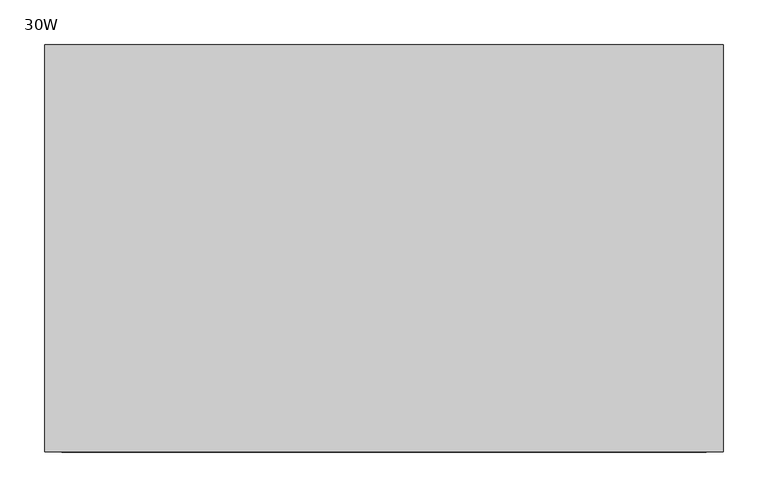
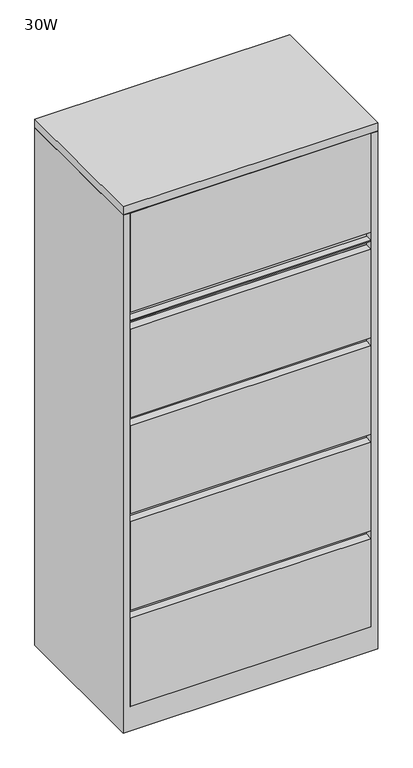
"""IFC4 building model written with IfcOpenShell, lengths in millimetres: furniture geometry, Steelcase - 900 Series - Storage - Lateral File With Drawer - 66H - Flush Steel : 30W."""

from ifc_helpers import new_model, si_unit, frame, origin, place, context, project, spatial, polyline, outline, extrude, faceted_brep, source, transform, mapped, element, save


def furniture_30w_b0734628(model_context):
    return source(origin(), model_context, "Body", "SolidModel", [
        extrude(outline(polyline([(762.0, 0.0), (762.0, -457.2), (0.0, -457.2), (0.0, 0.0), (762.0, 0.0)])), frame((0.0, 0.0, 1638.2999516), z_axis=(0.0, 0.0, 1.0), x_axis=(1.0, 0.0, 0.0)), (0.0, 0.0, 1.0), 25.4),
        faceted_brep([(742.6960184, -25.2721219, 1636.776), (742.6960184, -457.2, 1636.776), (762.0, -457.2, 1636.776), (762.0, 0.0, 1636.776), (0.0, 0.0, 1636.776), (0.0, -457.2, 1636.776), (19.3039998, -457.2, 1636.776), (19.3039998, -25.2721219, 1636.776), (0.0, -457.2, 0.0), (0.0, 0.0, 0.0), (762.0, 0.0, 0.0), (762.0, -457.2, 0.0), (742.6960184, -25.2721219, 381.0), (742.6960184, -431.800255, 381.0), (742.6960184, -431.800255, 355.6), (742.6960184, -25.2721219, 355.6), (742.6960184, -25.2721219, 76.2), (742.6960184, -457.2, 76.2), (19.3039998, -457.2, 76.2), (19.3039998, -25.2721219, 76.2), (19.3039998, -25.2721219, 355.6), (19.3039998, -431.800255, 355.6), (19.3039998, -431.800255, 381.0), (19.3039998, -25.2721219, 381.0)], [[[0, 1, 2, 3, 4, 5, 6, 7]], [[8, 9, 10, 11]], [[1, 0, 12, 13, 14, 15, 16, 17]], [[2, 1, 17, 18, 6, 5, 8, 11]], [[3, 2, 11, 10]], [[4, 3, 10, 9]], [[5, 4, 9, 8]], [[7, 6, 18, 19, 20, 21, 22, 23]], [[0, 7, 23, 12]], [[16, 15, 20, 19]], [[18, 17, 16, 19]], [[22, 13, 12, 23]], [[13, 22, 21, 14]], [[14, 21, 20, 15]]]),
        extrude(outline(polyline([(741.1722015, -457.2), (20.8289612, -457.2), (20.8289612, -434.9741219), (741.1722015, -434.9741219), (741.1722015, -457.2)])), frame((0.0, 0.0, 1295.4), z_axis=(0.0, 0.0, 1.0), x_axis=(1.0, 0.0, 0.0)), (0.0, 0.0, 1.0), 3.175),
        extrude(outline(polyline([(741.1722015, -457.2), (20.8289612, -457.2), (20.8289612, -431.800255), (741.1722015, -431.800255), (741.1722015, -457.2)])), frame((0.0, 0.0, 1323.975), z_axis=(0.0, 0.0, 1.0), x_axis=(1.0, 0.0, 0.0)), (0.0, 0.0, 1.0), 312.801),
        extrude(outline(polyline([(742.6960184, -25.2721219), (742.6960184, -431.800255), (19.3039998, -431.800255), (19.3039998, -25.2721219), (742.6960184, -25.2721219)])), frame((0.0, 0.0, 660.4), z_axis=(0.0, 0.0, 1.0), x_axis=(1.0, 0.0, 0.0)), (0.0, 0.0, 1.0), 25.4),
        extrude(outline(polyline([(741.1722015, -457.2), (20.8289612, -457.2), (20.8289612, -431.800255), (741.1722015, -431.800255), (741.1722015, -457.2)])), frame((0.0, 0.0, 990.6), z_axis=(0.0, 0.0, 1.0), x_axis=(1.0, 0.0, 0.0)), (0.0, 0.0, 1.0), 279.4),
        extrude(outline(polyline([(741.1722015, -457.2), (20.8289612, -457.2), (20.8289612, -431.800255), (741.1722015, -431.800255), (741.1722015, -457.2)])), frame((0.0, 0.0, 685.8), z_axis=(0.0, 0.0, 1.0), x_axis=(1.0, 0.0, 0.0)), (0.0, 0.0, 1.0), 279.4),
        extrude(outline(polyline([(742.6960184, -25.2721219), (742.6960184, -431.800255), (19.3039998, -431.800255), (19.3039998, -25.2721219), (742.6960184, -25.2721219)])), frame((0.0, 0.0, 1270.0), z_axis=(0.0, 0.0, 1.0), x_axis=(1.0, 0.0, 0.0)), (0.0, 0.0, 1.0), 53.975),
        extrude(outline(polyline([(742.6960184, -25.2721219), (742.6960184, -431.800255), (19.3039998, -431.800255), (19.3039998, -25.2721219), (742.6960184, -25.2721219)])), frame((0.0, 0.0, 965.2), z_axis=(0.0, 0.0, 1.0), x_axis=(1.0, 0.0, 0.0)), (0.0, 0.0, 1.0), 25.4),
        extrude(outline(polyline([(742.6960184, -25.2721219), (742.6960184, -415.9241219), (20.8289612, -415.9241219), (20.8289612, -25.2721219), (742.6960184, -25.2721219)])), frame((0.0, 0.0, 1636.776), z_axis=(0.0, 0.0, 1.0), x_axis=(1.0, 0.0, 0.0)), (0.0, 0.0, 1.0), 1.5239516),
        extrude(outline(polyline([(741.1722015, -457.2), (20.8289612, -457.2), (20.8289612, -431.800255), (741.1722015, -431.800255), (741.1722015, -457.2)])), frame((0.0, 0.0, 76.2), z_axis=(0.0, 0.0, 1.0), x_axis=(1.0, 0.0, 0.0)), (0.0, 0.0, 1.0), 279.4),
        extrude(outline(polyline([(741.1722015, -457.2), (20.8289612, -457.2), (20.8289612, -431.800255), (741.1722015, -431.800255), (741.1722015, -457.2)])), frame((0.0, 0.0, 381.0), z_axis=(0.0, 0.0, 1.0), x_axis=(1.0, 0.0, 0.0)), (0.0, 0.0, 1.0), 279.4),
    ])


if __name__ == "__main__":
    model = new_model("IFC4")
    model_context = context("Model", 3, world=origin())
    ifc_project = project(units=[si_unit("LENGTHUNIT", "METRE", prefix="MILLI")], contexts=[model_context])
    site = spatial("IfcSite", under=ifc_project)
    building = spatial("IfcBuilding", under=site)
    placement = place(None, origin())
    furniture_30w_shape = furniture_30w_b0734628(model_context)
    element("IfcFurniture", 1, ObjectType="Steelcase - 900 Series - Storage - Lateral File With Drawer - 66H - Flush Steel : 30W", at=placement, inside=building, context=model_context, shape_type="MappedRepresentation", body=[
        mapped(furniture_30w_shape, transform((0.0, 0.0, 0.0), x_axis=(1.0, 0.0, 0.0), y_axis=(0.0, 1.0, 0.0), z_axis=(0.0, 0.0, 1.0))),
    ])
    save(model, "model.ifc")
